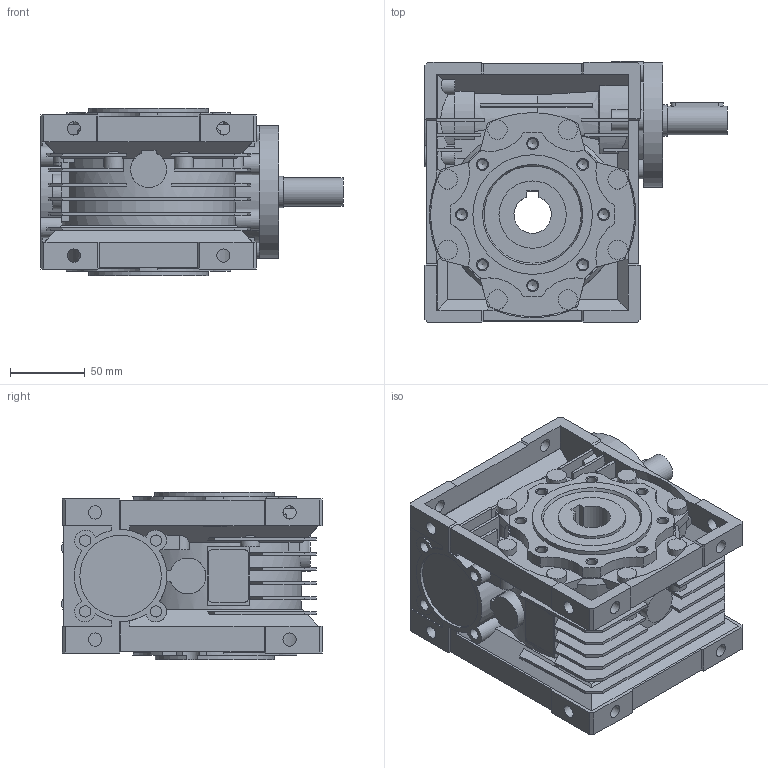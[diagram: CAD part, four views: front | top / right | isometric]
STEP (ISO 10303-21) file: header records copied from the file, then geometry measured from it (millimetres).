
FILE_DESCRIPTION((''),'2;1');
FILE_NAME('C:\Users\Ruben\Documents\Inventor\stage motors\Wormwielkast JRST Volle ingaande as\STEP File Wormwielkast JRST Volle ingaande as\JRST063 Volle ingaande as.stp','2013-10-14T16:08:36',('Ruben'),(''),'Autodesk Inventor 2013','Autodesk Inventor 2013','');
FILE_SCHEMA(('AUTOMOTIVE_DESIGN { 1 0 10303 214 1 1 1 1 }'));
Length unit declared in the file: millimetre
Products named in the file (3): JRST063 Volle ingaande as; 1; 2
Assembly tree (2 placements, depth 2):
  JRST063 Volle ingaande as
    1
    2
Bounding box: 202 x 174.48 x 112 mm (x, y, z)
Volume: 1772285.7 mm3; surface area: 303035.4 mm2
Topology: 2 solids, 5 shells, 910 faces, 2526 edges, 1652 vertices
Faces by surface type: plane 633, cylinder 204, cone 71, bspline 2
Full cylindrical faces by diameter (mm): 4.917 x1, 6.647 x16, 7.56 x4, 8.78 x14, 13 x8, 15.741 x1, 19 x1, 21 x2, 34 x1, 37 x1, 45 x2, 54.5 x1, 80 x1, 110 x1
Entity records: 29551 total; most frequent: CARTESIAN_POINT 5557, ORIENTED_EDGE 4810, DIRECTION 4745, EDGE_CURVE 2405, VERTEX_POINT 1623, VECTOR 1623, LINE 1623, AXIS2_PLACEMENT_3D 1561
